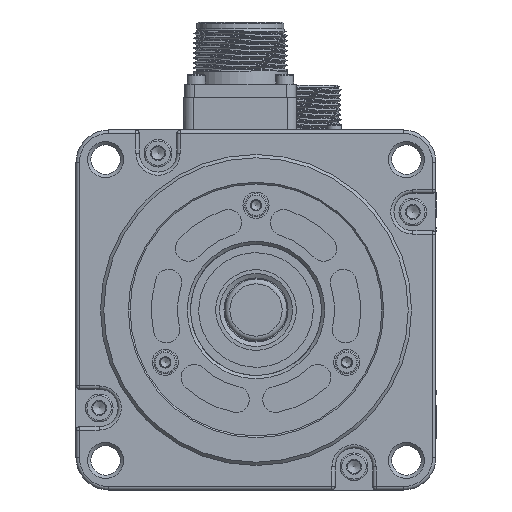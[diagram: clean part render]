
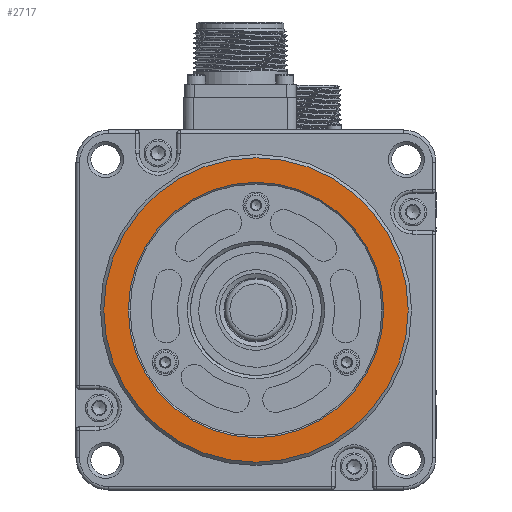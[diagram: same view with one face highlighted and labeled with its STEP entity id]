
A CAD part, front view. The second image highlights one B-rep face of the part: STEP entity #2717.
In plain terms, the highlighted planar face has unit normal (0, -1, 0).
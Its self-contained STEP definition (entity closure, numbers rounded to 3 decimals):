
#584=FACE_BOUND('',#5503,.T.);
#585=FACE_BOUND('',#5504,.T.);
#1820=PLANE('',#21626);
#2717=ADVANCED_FACE('',(#584,#585),#1820,.T.);
#5503=EDGE_LOOP('',(#10050));
#5504=EDGE_LOOP('',(#10051));
#7063=CIRCLE('',#21624,39.);
#7064=CIRCLE('',#21625,46.5);
#10050=ORIENTED_EDGE('',*,*,#16509,.T.);
#10051=ORIENTED_EDGE('',*,*,#16510,.T.);
#14270=VERTEX_POINT('',#35126);
#14271=VERTEX_POINT('',#35128);
#16509=EDGE_CURVE('',#14270,#14270,#7063,.T.);
#16510=EDGE_CURVE('',#14271,#14271,#7064,.T.);
#21624=AXIS2_PLACEMENT_3D('',#35125,#25411,#25412);
#21625=AXIS2_PLACEMENT_3D('',#35127,#25413,#25414);
#21626=AXIS2_PLACEMENT_3D('',#35129,#25415,#25416);
#25411=DIRECTION('',(0.,1.,0.));
#25412=DIRECTION('',(1.,0.,0.));
#25413=DIRECTION('',(0.,-1.,0.));
#25414=DIRECTION('',(1.,0.,0.));
#25415=DIRECTION('',(0.,-1.,0.));
#25416=DIRECTION('',(-1.,0.,0.));
#35125=CARTESIAN_POINT('',(55.124,-65.878,-91.192));
#35126=CARTESIAN_POINT('',(94.124,-65.878,-91.192));
#35127=CARTESIAN_POINT('',(55.124,-65.878,-91.192));
#35128=CARTESIAN_POINT('',(101.624,-65.878,-91.192));
#35129=CARTESIAN_POINT('',(55.124,-65.878,-91.192));
